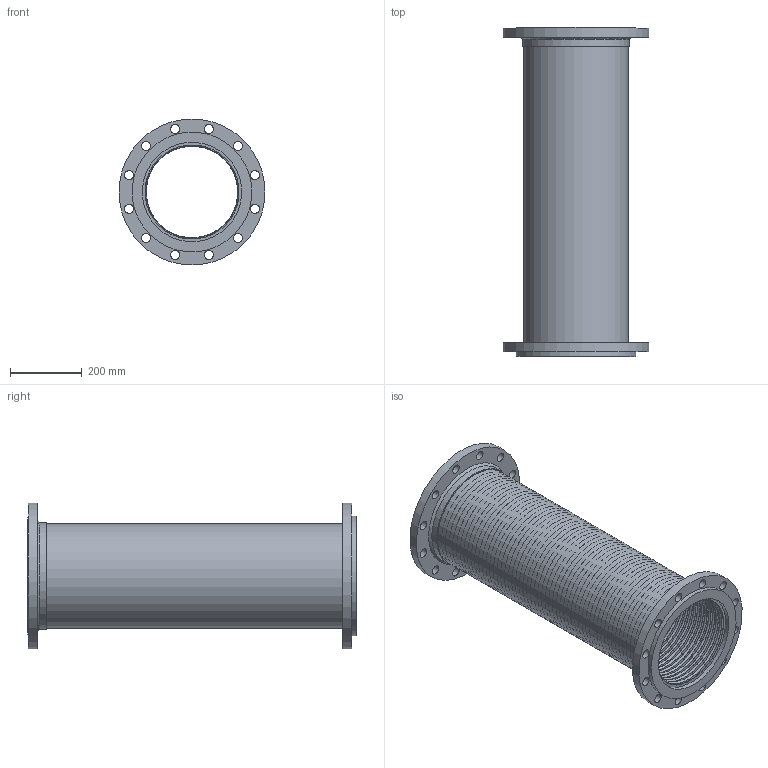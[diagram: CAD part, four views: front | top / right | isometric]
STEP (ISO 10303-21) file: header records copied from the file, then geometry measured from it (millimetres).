
FILE_DESCRIPTION((''),'2;1');
FILE_NAME('C:\REVIT SHARED FILES\STP\FFL10x36ASA150.stp','2013-06-14T19:21:52',('rramoutar'),(''),'Autodesk Inventor 2012','Autodesk Inventor 2012','');
FILE_SCHEMA(('AUTOMOTIVE_DESIGN { 1 0 10303 214 1 1 1 1 }'));
Length unit declared in the file: inch
Products named in the file (8): FFL 10x36 Per A-30313-3; FFL 10x36 Per A-30313-3_Welds; A-30302-2 FIXED FLANGE 10 inch 150 #; A-30303-1 FLOATING FLANGE 10 inch 150 #; A-30304-2 FFL WELDED WASHER 10 inch 150 #; A-29781-7 10.0 inch braid collar; FFL 10x36 Stainless Hose; FFL 10x36 Stainless Braid
Assembly tree (8 placements, depth 2):
  FFL 10x36 Per A-30313-3
    FFL 10x36 Per A-30313-3_Welds
    A-30302-2 FIXED FLANGE 10 inch 150 #
    A-30303-1 FLOATING FLANGE 10 inch 150 #
    A-30304-2 FFL WELDED WASHER 10 inch 150 #
    A-29781-7 10.0 inch braid collar  x2
    FFL 10x36 Stainless Hose
    FFL 10x36 Stainless Braid
Bounding box: 404.85 x 914.4 x 404.85 mm (x, y, z)
Volume: 5283407.8 mm3; surface area: 6787737 mm2
Topology: 9 solids, 9 shells, 543 faces, 858 edges, 573 vertices
Faces by surface type: plane 258, torus 243, cylinder 39, bspline 2, cone 1
Full cylindrical faces by diameter (mm): 25.4 x24, 276.225 x2, 291.084 x1, 292.1 x3, 296.863 x4, 300.038 x1, 323.85 x1, 333.375 x1, 406.4 x2
Entity records: 11931 total; most frequent: DIRECTION 2224, CARTESIAN_POINT 2184, ORIENTED_EDGE 1138, EDGE_LOOP 1124, AXIS2_PLACEMENT_3D 1112, FACE_BOUND 585, EDGE_CURVE 569, VERTEX_POINT 567
